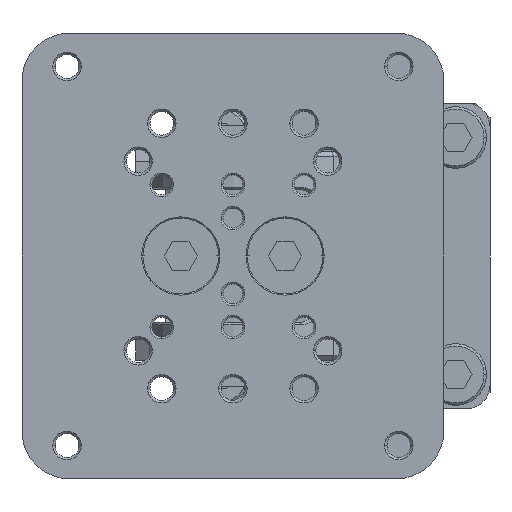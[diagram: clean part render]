
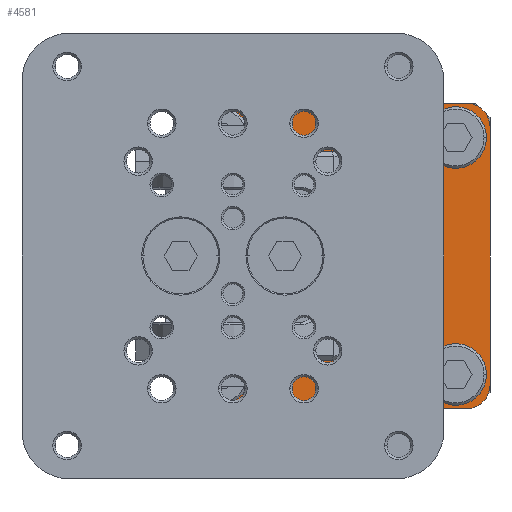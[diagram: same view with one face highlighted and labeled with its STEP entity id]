
A CAD part, front view. The second image highlights one B-rep face of the part: STEP entity #4581.
In plain terms, the highlighted planar face has unit normal (0, -1, 0).
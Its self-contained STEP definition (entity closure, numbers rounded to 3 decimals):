
#2402=LINE('',#24919,#3561);
#2404=LINE('',#24927,#3563);
#2405=LINE('',#24931,#3564);
#2406=LINE('',#24943,#3565);
#2407=LINE('',#24947,#3566);
#2408=LINE('',#24951,#3567);
#2409=LINE('',#24953,#3568);
#2410=LINE('',#24957,#3569);
#2411=LINE('',#24959,#3570);
#2412=LINE('',#24961,#3571);
#2413=LINE('',#24965,#3572);
#2414=LINE('',#24967,#3573);
#2415=LINE('',#24971,#3574);
#3561=VECTOR('',#19514,1.);
#3563=VECTOR('',#19522,1.);
#3564=VECTOR('',#19525,1.);
#3565=VECTOR('',#19536,1.);
#3566=VECTOR('',#19539,1.);
#3567=VECTOR('',#19542,1.);
#3568=VECTOR('',#19543,1.);
#3569=VECTOR('',#19546,1.);
#3570=VECTOR('',#19547,1.);
#3571=VECTOR('',#19548,1.);
#3572=VECTOR('',#19551,1.);
#3573=VECTOR('',#19552,1.);
#3574=VECTOR('',#19555,1.);
#4581=ADVANCED_FACE('',(#5490,#5491,#5492,#5493,#5494,#5495),#5214,.F.);
#5214=PLANE('',#16177);
#5490=FACE_BOUND('',#6227,.T.);
#5491=FACE_BOUND('',#6228,.T.);
#5492=FACE_BOUND('',#6229,.T.);
#5493=FACE_BOUND('',#6230,.T.);
#5494=FACE_BOUND('',#6231,.T.);
#5495=FACE_BOUND('',#6232,.T.);
#6227=EDGE_LOOP('',(#9116,#9117,#9118,#9119,#9120,#9121));
#6228=EDGE_LOOP('',(#9122,#9123));
#6229=EDGE_LOOP('',(#9124,#9125));
#6230=EDGE_LOOP('',(#9126,#9127,#9128,#9129,#9130,#9131,#9132,#9133,#9134,
#9135,#9136,#9137,#9138,#9139,#9140,#9141));
#6231=EDGE_LOOP('',(#9142,#9143));
#6232=EDGE_LOOP('',(#9144,#9145));
#9116=ORIENTED_EDGE('',*,*,#13496,.T.);
#9117=ORIENTED_EDGE('',*,*,#13494,.F.);
#9118=ORIENTED_EDGE('',*,*,#13497,.T.);
#9119=ORIENTED_EDGE('',*,*,#13498,.T.);
#9120=ORIENTED_EDGE('',*,*,#13499,.F.);
#9121=ORIENTED_EDGE('',*,*,#13500,.F.);
#9122=ORIENTED_EDGE('',*,*,#13501,.T.);
#9123=ORIENTED_EDGE('',*,*,#13502,.T.);
#9124=ORIENTED_EDGE('',*,*,#13503,.T.);
#9125=ORIENTED_EDGE('',*,*,#13504,.T.);
#9126=ORIENTED_EDGE('',*,*,#13505,.T.);
#9127=ORIENTED_EDGE('',*,*,#13506,.F.);
#9128=ORIENTED_EDGE('',*,*,#13507,.T.);
#9129=ORIENTED_EDGE('',*,*,#13508,.F.);
#9130=ORIENTED_EDGE('',*,*,#13509,.T.);
#9131=ORIENTED_EDGE('',*,*,#13510,.F.);
#9132=ORIENTED_EDGE('',*,*,#13511,.T.);
#9133=ORIENTED_EDGE('',*,*,#13512,.F.);
#9134=ORIENTED_EDGE('',*,*,#13513,.F.);
#9135=ORIENTED_EDGE('',*,*,#13514,.F.);
#9136=ORIENTED_EDGE('',*,*,#13515,.T.);
#9137=ORIENTED_EDGE('',*,*,#13516,.F.);
#9138=ORIENTED_EDGE('',*,*,#13517,.F.);
#9139=ORIENTED_EDGE('',*,*,#13518,.F.);
#9140=ORIENTED_EDGE('',*,*,#13519,.T.);
#9141=ORIENTED_EDGE('',*,*,#13520,.F.);
#9142=ORIENTED_EDGE('',*,*,#13521,.T.);
#9143=ORIENTED_EDGE('',*,*,#13522,.T.);
#9144=ORIENTED_EDGE('',*,*,#13523,.T.);
#9145=ORIENTED_EDGE('',*,*,#13524,.T.);
#11708=VERTEX_POINT('',#24918);
#11709=VERTEX_POINT('',#24920);
#11710=VERTEX_POINT('',#24924);
#11711=VERTEX_POINT('',#24926);
#11712=VERTEX_POINT('',#24928);
#11713=VERTEX_POINT('',#24930);
#11714=VERTEX_POINT('',#24933);
#11715=VERTEX_POINT('',#24934);
#11716=VERTEX_POINT('',#24937);
#11717=VERTEX_POINT('',#24938);
#11718=VERTEX_POINT('',#24941);
#11719=VERTEX_POINT('',#24942);
#11720=VERTEX_POINT('',#24944);
#11721=VERTEX_POINT('',#24946);
#11722=VERTEX_POINT('',#24948);
#11723=VERTEX_POINT('',#24950);
#11724=VERTEX_POINT('',#24952);
#11725=VERTEX_POINT('',#24954);
#11726=VERTEX_POINT('',#24956);
#11727=VERTEX_POINT('',#24958);
#11728=VERTEX_POINT('',#24960);
#11729=VERTEX_POINT('',#24962);
#11730=VERTEX_POINT('',#24964);
#11731=VERTEX_POINT('',#24966);
#11732=VERTEX_POINT('',#24968);
#11733=VERTEX_POINT('',#24970);
#11734=VERTEX_POINT('',#24973);
#11735=VERTEX_POINT('',#24974);
#11736=VERTEX_POINT('',#24977);
#11737=VERTEX_POINT('',#24978);
#13494=EDGE_CURVE('',#11708,#11709,#2402,.T.);
#13496=EDGE_CURVE('',#11710,#11709,#14818,.T.);
#13497=EDGE_CURVE('',#11708,#11711,#14819,.T.);
#13498=EDGE_CURVE('',#11711,#11712,#2404,.T.);
#13499=EDGE_CURVE('',#11713,#11712,#14820,.T.);
#13500=EDGE_CURVE('',#11710,#11713,#2405,.T.);
#13501=EDGE_CURVE('',#11714,#11715,#14821,.T.);
#13502=EDGE_CURVE('',#11715,#11714,#14822,.T.);
#13503=EDGE_CURVE('',#11716,#11717,#14823,.T.);
#13504=EDGE_CURVE('',#11717,#11716,#14824,.T.);
#13505=EDGE_CURVE('',#11718,#11719,#14825,.T.);
#13506=EDGE_CURVE('',#11720,#11719,#2406,.T.);
#13507=EDGE_CURVE('',#11720,#11721,#14826,.T.);
#13508=EDGE_CURVE('',#11722,#11721,#2407,.T.);
#13509=EDGE_CURVE('',#11722,#11723,#14827,.T.);
#13510=EDGE_CURVE('',#11724,#11723,#2408,.T.);
#13511=EDGE_CURVE('',#11724,#11725,#2409,.T.);
#13512=EDGE_CURVE('',#11726,#11725,#14828,.T.);
#13513=EDGE_CURVE('',#11727,#11726,#2410,.T.);
#13514=EDGE_CURVE('',#11728,#11727,#2411,.T.);
#13515=EDGE_CURVE('',#11728,#11729,#2412,.T.);
#13516=EDGE_CURVE('',#11730,#11729,#14829,.T.);
#13517=EDGE_CURVE('',#11731,#11730,#2413,.T.);
#13518=EDGE_CURVE('',#11732,#11731,#2414,.T.);
#13519=EDGE_CURVE('',#11732,#11733,#14830,.T.);
#13520=EDGE_CURVE('',#11718,#11733,#2415,.T.);
#13521=EDGE_CURVE('',#11734,#11735,#14831,.T.);
#13522=EDGE_CURVE('',#11735,#11734,#14832,.T.);
#13523=EDGE_CURVE('',#11736,#11737,#14833,.T.);
#13524=EDGE_CURVE('',#11737,#11736,#14834,.T.);
#14818=CIRCLE('',#16160,8.);
#14819=CIRCLE('',#16161,8.);
#14820=CIRCLE('',#16162,22.);
#14821=CIRCLE('',#16163,4.3);
#14822=CIRCLE('',#16164,4.3);
#14823=CIRCLE('',#16165,4.3);
#14824=CIRCLE('',#16166,4.3);
#14825=CIRCLE('',#16167,5.);
#14826=CIRCLE('',#16168,5.);
#14827=CIRCLE('',#16169,5.);
#14828=CIRCLE('',#16170,3.);
#14829=CIRCLE('',#16171,3.);
#14830=CIRCLE('',#16172,5.);
#14831=CIRCLE('',#16173,4.3);
#14832=CIRCLE('',#16174,4.3);
#14833=CIRCLE('',#16175,4.3);
#14834=CIRCLE('',#16176,4.3);
#16160=AXIS2_PLACEMENT_3D('',#24923,#19518,#19519);
#16161=AXIS2_PLACEMENT_3D('',#24925,#19520,#19521);
#16162=AXIS2_PLACEMENT_3D('',#24929,#19523,#19524);
#16163=AXIS2_PLACEMENT_3D('',#24932,#19526,#19527);
#16164=AXIS2_PLACEMENT_3D('',#24935,#19528,#19529);
#16165=AXIS2_PLACEMENT_3D('',#24936,#19530,#19531);
#16166=AXIS2_PLACEMENT_3D('',#24939,#19532,#19533);
#16167=AXIS2_PLACEMENT_3D('',#24940,#19534,#19535);
#16168=AXIS2_PLACEMENT_3D('',#24945,#19537,#19538);
#16169=AXIS2_PLACEMENT_3D('',#24949,#19540,#19541);
#16170=AXIS2_PLACEMENT_3D('',#24955,#19544,#19545);
#16171=AXIS2_PLACEMENT_3D('',#24963,#19549,#19550);
#16172=AXIS2_PLACEMENT_3D('',#24969,#19553,#19554);
#16173=AXIS2_PLACEMENT_3D('',#24972,#19556,#19557);
#16174=AXIS2_PLACEMENT_3D('',#24975,#19558,#19559);
#16175=AXIS2_PLACEMENT_3D('',#24976,#19560,#19561);
#16176=AXIS2_PLACEMENT_3D('',#24979,#19562,#19563);
#16177=AXIS2_PLACEMENT_3D('',#24980,#19564,#19565);
#19514=DIRECTION('',(0.,0.,-1.));
#19518=DIRECTION('',(0.,1.,0.));
#19519=DIRECTION('',(0.,0.,-1.));
#19520=DIRECTION('',(0.,1.,0.));
#19521=DIRECTION('',(-1.,0.,0.));
#19522=DIRECTION('',(1.,0.,0.));
#19523=DIRECTION('',(0.,-1.,0.));
#19524=DIRECTION('',(0.,0.,-1.));
#19525=DIRECTION('',(1.,0.,0.));
#19526=DIRECTION('',(0.,1.,0.));
#19527=DIRECTION('',(0.,0.,1.));
#19528=DIRECTION('',(0.,1.,0.));
#19529=DIRECTION('',(0.,0.,-1.));
#19530=DIRECTION('',(0.,1.,0.));
#19531=DIRECTION('',(0.,0.,1.));
#19532=DIRECTION('',(0.,1.,0.));
#19533=DIRECTION('',(0.,0.,-1.));
#19534=DIRECTION('',(0.,-1.,0.));
#19535=DIRECTION('',(-1.,0.,0.));
#19536=DIRECTION('',(-1.,0.,0.));
#19537=DIRECTION('',(0.,-1.,0.));
#19538=DIRECTION('',(0.,0.,-1.));
#19539=DIRECTION('',(0.,0.,-1.));
#19540=DIRECTION('',(0.,-1.,0.));
#19541=DIRECTION('',(1.,0.,0.));
#19542=DIRECTION('',(1.,0.,0.));
#19543=DIRECTION('',(0.,0.,-1.));
#19544=DIRECTION('',(0.,-1.,0.));
#19545=DIRECTION('',(-1.,0.,0.));
#19546=DIRECTION('',(0.,0.,-1.));
#19547=DIRECTION('',(1.,0.,0.));
#19548=DIRECTION('',(0.,0.,-1.));
#19549=DIRECTION('',(0.,-1.,0.));
#19550=DIRECTION('',(-1.,0.,0.));
#19551=DIRECTION('',(0.,0.,-1.));
#19552=DIRECTION('',(1.,0.,0.));
#19553=DIRECTION('',(0.,-1.,0.));
#19554=DIRECTION('',(0.,0.,1.));
#19555=DIRECTION('',(0.,0.,1.));
#19556=DIRECTION('',(0.,1.,0.));
#19557=DIRECTION('',(0.,0.,1.));
#19558=DIRECTION('',(0.,1.,0.));
#19559=DIRECTION('',(0.,0.,-1.));
#19560=DIRECTION('',(0.,1.,0.));
#19561=DIRECTION('',(0.,0.,1.));
#19562=DIRECTION('',(0.,1.,0.));
#19563=DIRECTION('',(0.,0.,-1.));
#19564=DIRECTION('',(0.,1.,0.));
#19565=DIRECTION('',(0.,0.,-1.));
#24918=CARTESIAN_POINT('',(14.5,-11.,-25.25));
#24919=CARTESIAN_POINT('',(14.5,-11.,-39.25));
#24920=CARTESIAN_POINT('',(14.5,-11.,-53.25));
#24923=CARTESIAN_POINT('',(22.5,-11.,-53.25));
#24924=CARTESIAN_POINT('',(22.5,-11.,-61.25));
#24925=CARTESIAN_POINT('',(22.5,-11.,-25.25));
#24926=CARTESIAN_POINT('',(22.5,-11.,-17.25));
#24927=CARTESIAN_POINT('',(22.5,-11.,-17.25));
#24928=CARTESIAN_POINT('',(31.75,-11.,-17.25));
#24929=CARTESIAN_POINT('',(31.75,-11.,-39.25));
#24930=CARTESIAN_POINT('',(31.75,-11.,-61.25));
#24931=CARTESIAN_POINT('',(22.5,-11.,-61.25));
#24932=CARTESIAN_POINT('',(56.75,-11.,-14.25));
#24933=CARTESIAN_POINT('',(56.75,-11.,-9.95));
#24934=CARTESIAN_POINT('',(56.75,-11.,-18.55));
#24935=CARTESIAN_POINT('',(56.75,-11.,-14.25));
#24936=CARTESIAN_POINT('',(56.75,-11.,-64.25));
#24937=CARTESIAN_POINT('',(56.75,-11.,-59.95));
#24938=CARTESIAN_POINT('',(56.75,-11.,-68.55));
#24939=CARTESIAN_POINT('',(56.75,-11.,-64.25));
#24940=CARTESIAN_POINT('',(4.5,-11.,-66.5));
#24941=CARTESIAN_POINT('',(-0.5,-11.,-66.5));
#24942=CARTESIAN_POINT('',(4.5,-11.,-71.5));
#24943=CARTESIAN_POINT('',(59.,-11.,-71.5));
#24944=CARTESIAN_POINT('',(59.,-11.,-71.5));
#24945=CARTESIAN_POINT('',(59.,-11.,-66.5));
#24946=CARTESIAN_POINT('',(64.,-11.,-66.5));
#24947=CARTESIAN_POINT('',(64.,-11.,-12.));
#24948=CARTESIAN_POINT('',(64.,-11.,-12.));
#24949=CARTESIAN_POINT('',(59.,-11.,-12.));
#24950=CARTESIAN_POINT('',(59.,-11.,-7.));
#24951=CARTESIAN_POINT('',(47.75,-11.,-7.));
#24952=CARTESIAN_POINT('',(47.75,-11.,-7.));
#24953=CARTESIAN_POINT('',(47.75,-11.,-7.));
#24954=CARTESIAN_POINT('',(47.75,-11.,-10.));
#24955=CARTESIAN_POINT('',(44.75,-11.,-10.));
#24956=CARTESIAN_POINT('',(41.75,-11.,-10.));
#24957=CARTESIAN_POINT('',(41.75,-11.,-7.));
#24958=CARTESIAN_POINT('',(41.75,-11.,-7.));
#24959=CARTESIAN_POINT('',(21.75,-11.,-7.));
#24960=CARTESIAN_POINT('',(21.75,-11.,-7.));
#24961=CARTESIAN_POINT('',(21.75,-11.,-7.));
#24962=CARTESIAN_POINT('',(21.75,-11.,-10.));
#24963=CARTESIAN_POINT('',(18.75,-11.,-10.));
#24964=CARTESIAN_POINT('',(15.75,-11.,-10.));
#24965=CARTESIAN_POINT('',(15.75,-11.,-7.));
#24966=CARTESIAN_POINT('',(15.75,-11.,-7.));
#24967=CARTESIAN_POINT('',(4.5,-11.,-7.));
#24968=CARTESIAN_POINT('',(4.5,-11.,-7.));
#24969=CARTESIAN_POINT('',(4.5,-11.,-12.));
#24970=CARTESIAN_POINT('',(-0.5,-11.,-12.));
#24971=CARTESIAN_POINT('',(-0.5,-11.,-66.5));
#24972=CARTESIAN_POINT('',(6.75,-11.,-64.25));
#24973=CARTESIAN_POINT('',(6.75,-11.,-59.95));
#24974=CARTESIAN_POINT('',(6.75,-11.,-68.55));
#24975=CARTESIAN_POINT('',(6.75,-11.,-64.25));
#24976=CARTESIAN_POINT('',(6.75,-11.,-14.25));
#24977=CARTESIAN_POINT('',(6.75,-11.,-9.95));
#24978=CARTESIAN_POINT('',(6.75,-11.,-18.55));
#24979=CARTESIAN_POINT('',(6.75,-11.,-14.25));
#24980=CARTESIAN_POINT('',(31.75,-11.,-39.25));
